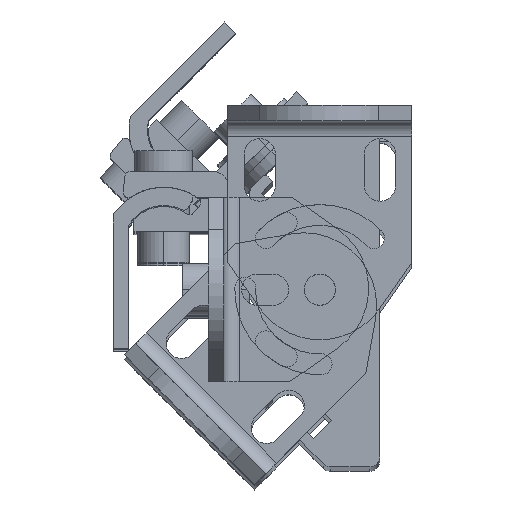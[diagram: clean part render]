
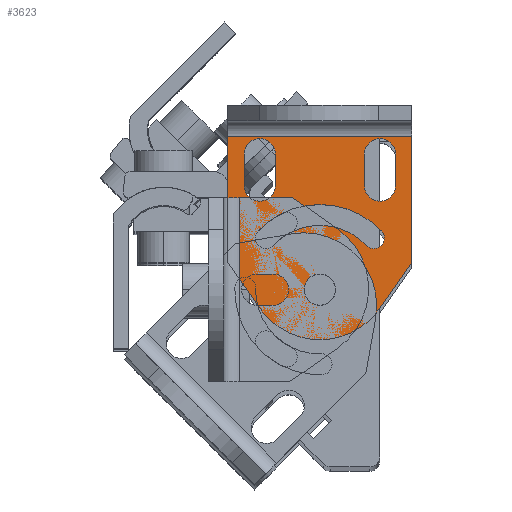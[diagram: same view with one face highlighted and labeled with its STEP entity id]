
A CAD part, top view. The second image highlights one B-rep face of the part: STEP entity #3623.
In plain terms, the highlighted planar face has unit normal (0, 0, 1) as drawn and (0, 0, -1) by its records, which use the part's own axes.
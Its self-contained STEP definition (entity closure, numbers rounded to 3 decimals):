
#3125=CARTESIAN_POINT('',(3.,22.278,-1.5));
#3126=VERTEX_POINT('',#3125);
#3135=CARTESIAN_POINT('',(-3.,22.278,-1.5));
#3136=VERTEX_POINT('',#3135);
#3137=CARTESIAN_POINT('',(0.,22.278,-1.5));
#3138=DIRECTION('',(0.0,0.0,1.0));
#3139=DIRECTION('',(1.0,0.0,0.0));
#3140=AXIS2_PLACEMENT_3D('',#3137,#3138,#3139);
#3141=CIRCLE('',#3140,3.);
#3142=EDGE_CURVE('',#3136,#3126,#3141,.T.);
#3177=CARTESIAN_POINT('',(-17.677,-7.132,-1.5));
#3178=VERTEX_POINT('',#3177);
#3186=CARTESIAN_POINT('',(17.677,-7.132,-1.5));
#3187=VERTEX_POINT('',#3186);
#3188=CARTESIAN_POINT('',(17.677,-7.132,-1.5));
#3189=DIRECTION('',(-1.0,0.0,0.0));
#3190=VECTOR('',#3189,35.354);
#3191=LINE('',#3188,#3190);
#3192=EDGE_CURVE('',#3187,#3178,#3191,.T.);
#3388=CARTESIAN_POINT('',(17.677,17.082,-1.5));
#3389=VERTEX_POINT('',#3388);
#3390=CARTESIAN_POINT('',(17.677,17.082,-1.5));
#3391=DIRECTION('',(0.0,-1.0,0.0));
#3392=VECTOR('',#3391,24.214);
#3393=LINE('',#3390,#3392);
#3394=EDGE_CURVE('',#3389,#3187,#3393,.T.);
#3463=CARTESIAN_POINT('',(-0.043,-2.357,-1.5));
#3464=DIRECTION('',(0.0,0.0,1.0));
#3465=DIRECTION('',(1.0,0.0,0.0));
#3466=AXIS2_PLACEMENT_3D('',#3463,#3464,#3465);
#3467=PLANE('',#3466);
#3468=ORIENTED_EDGE('',*,*,#3192,.T.);
#3469=CARTESIAN_POINT('',(-17.677,17.082,-1.5));
#3470=VERTEX_POINT('',#3469);
#3471=CARTESIAN_POINT('',(-17.677,-7.132,-1.5));
#3472=DIRECTION('',(0.0,1.0,0.0));
#3473=VECTOR('',#3472,24.214);
#3474=LINE('',#3471,#3473);
#3475=EDGE_CURVE('',#3178,#3470,#3474,.T.);
#3476=ORIENTED_EDGE('',*,*,#3475,.T.);
#3477=CARTESIAN_POINT('',(-11.468,25.949,-1.5));
#3478=VERTEX_POINT('',#3477);
#3479=CARTESIAN_POINT('',(-17.677,17.082,-1.5));
#3480=DIRECTION('',(0.574,0.819,0.0));
#3481=VECTOR('',#3480,10.825);
#3482=LINE('',#3479,#3481);
#3483=EDGE_CURVE('',#3470,#3478,#3482,.T.);
#3484=ORIENTED_EDGE('',*,*,#3483,.T.);
#3485=CARTESIAN_POINT('',(11.468,25.949,-1.5));
#3486=VERTEX_POINT('',#3485);
#3487=CARTESIAN_POINT('',(0.,17.919,-1.5));
#3488=DIRECTION('',(0.0,0.0,-1.0));
#3489=DIRECTION('',(1.0,0.0,0.0));
#3490=AXIS2_PLACEMENT_3D('',#3487,#3488,#3489);
#3491=CIRCLE('',#3490,14.);
#3492=EDGE_CURVE('',#3478,#3486,#3491,.T.);
#3493=ORIENTED_EDGE('',*,*,#3492,.T.);
#3494=CARTESIAN_POINT('',(11.468,25.949,-1.5));
#3495=DIRECTION('',(0.574,-0.819,0.0));
#3496=VECTOR('',#3495,10.825);
#3497=LINE('',#3494,#3496);
#3498=EDGE_CURVE('',#3486,#3389,#3497,.T.);
#3499=ORIENTED_EDGE('',*,*,#3498,.T.);
#3500=ORIENTED_EDGE('',*,*,#3394,.T.);
#3501=EDGE_LOOP('',(#3468,#3476,#3484,#3493,#3499,#3500));
#3502=FACE_OUTER_BOUND('',#3501,.T.);
#3503=CARTESIAN_POINT('',(-8.55,2.278,-1.5));
#3504=VERTEX_POINT('',#3503);
#3505=CARTESIAN_POINT('',(-14.55,2.278,-1.5));
#3506=VERTEX_POINT('',#3505);
#3507=CARTESIAN_POINT('',(-11.55,2.278,-1.5));
#3508=DIRECTION('',(0.0,0.0,1.0));
#3509=DIRECTION('',(1.0,0.0,0.0));
#3510=AXIS2_PLACEMENT_3D('',#3507,#3508,#3509);
#3511=CIRCLE('',#3510,3.);
#3512=EDGE_CURVE('',#3504,#3506,#3511,.T.);
#3513=ORIENTED_EDGE('',*,*,#3512,.T.);
#3514=CARTESIAN_POINT('',(-14.55,-3.722,-1.5));
#3515=VERTEX_POINT('',#3514);
#3516=CARTESIAN_POINT('',(-14.55,2.278,-1.5));
#3517=DIRECTION('',(0.0,-1.0,0.0));
#3518=VECTOR('',#3517,6.);
#3519=LINE('',#3516,#3518);
#3520=EDGE_CURVE('',#3506,#3515,#3519,.T.);
#3521=ORIENTED_EDGE('',*,*,#3520,.T.);
#3522=CARTESIAN_POINT('',(-8.55,-3.722,-1.5));
#3523=VERTEX_POINT('',#3522);
#3524=CARTESIAN_POINT('',(-11.55,-3.722,-1.5));
#3525=DIRECTION('',(0.0,0.0,1.0));
#3526=DIRECTION('',(1.0,0.0,0.0));
#3527=AXIS2_PLACEMENT_3D('',#3524,#3525,#3526);
#3528=CIRCLE('',#3527,3.);
#3529=EDGE_CURVE('',#3515,#3523,#3528,.T.);
#3530=ORIENTED_EDGE('',*,*,#3529,.T.);
#3531=CARTESIAN_POINT('',(-8.55,-3.722,-1.5));
#3532=DIRECTION('',(0.0,1.0,0.0));
#3533=VECTOR('',#3532,6.);
#3534=LINE('',#3531,#3533);
#3535=EDGE_CURVE('',#3523,#3504,#3534,.T.);
#3536=ORIENTED_EDGE('',*,*,#3535,.T.);
#3537=EDGE_LOOP('',(#3513,#3521,#3530,#3536));
#3538=FACE_BOUND('',#3537,.T.);
#3539=CARTESIAN_POINT('',(8.936,13.767,-1.5));
#3540=VERTEX_POINT('',#3539);
#3541=CARTESIAN_POINT('',(-8.929,13.76,-1.5));
#3542=VERTEX_POINT('',#3541);
#3543=CARTESIAN_POINT('',(0.,22.278,-1.5));
#3544=DIRECTION('',(0.0,0.0,-1.0));
#3545=DIRECTION('',(1.0,0.0,0.0));
#3546=AXIS2_PLACEMENT_3D('',#3543,#3544,#3545);
#3547=CIRCLE('',#3546,12.341);
#3548=EDGE_CURVE('',#3540,#3542,#3547,.T.);
#3549=ORIENTED_EDGE('',*,*,#3548,.T.);
#3550=CARTESIAN_POINT('',(-11.824,10.999,-1.5));
#3551=VERTEX_POINT('',#3550);
#3552=CARTESIAN_POINT('',(-10.377,12.379,-1.5));
#3553=DIRECTION('',(0.0,0.0,1.0));
#3554=DIRECTION('',(1.0,0.0,0.0));
#3555=AXIS2_PLACEMENT_3D('',#3552,#3553,#3554);
#3556=CIRCLE('',#3555,2.);
#3557=EDGE_CURVE('',#3542,#3551,#3556,.T.);
#3558=ORIENTED_EDGE('',*,*,#3557,.T.);
#3559=CARTESIAN_POINT('',(11.832,11.008,-1.5));
#3560=VERTEX_POINT('',#3559);
#3561=CARTESIAN_POINT('',(0.,22.278,-1.5));
#3562=DIRECTION('',(0.0,0.0,1.0));
#3563=DIRECTION('',(1.0,0.0,0.0));
#3564=AXIS2_PLACEMENT_3D('',#3561,#3562,#3563);
#3565=CIRCLE('',#3564,16.341);
#3566=EDGE_CURVE('',#3551,#3560,#3565,.T.);
#3567=ORIENTED_EDGE('',*,*,#3566,.T.);
#3568=CARTESIAN_POINT('',(10.384,12.387,-1.5));
#3569=DIRECTION('',(0.0,0.0,1.0));
#3570=DIRECTION('',(1.0,0.0,0.0));
#3571=AXIS2_PLACEMENT_3D('',#3568,#3569,#3570);
#3572=CIRCLE('',#3571,2.);
#3573=EDGE_CURVE('',#3560,#3540,#3572,.T.);
#3574=ORIENTED_EDGE('',*,*,#3573,.T.);
#3575=EDGE_LOOP('',(#3549,#3558,#3567,#3574));
#3576=FACE_BOUND('',#3575,.T.);
#3577=CARTESIAN_POINT('',(8.55,-3.722,-1.5));
#3578=VERTEX_POINT('',#3577);
#3579=CARTESIAN_POINT('',(14.55,-3.722,-1.5));
#3580=VERTEX_POINT('',#3579);
#3581=CARTESIAN_POINT('',(11.55,-3.722,-1.5));
#3582=DIRECTION('',(0.0,0.0,1.0));
#3583=DIRECTION('',(1.0,0.0,0.0));
#3584=AXIS2_PLACEMENT_3D('',#3581,#3582,#3583);
#3585=CIRCLE('',#3584,3.);
#3586=EDGE_CURVE('',#3578,#3580,#3585,.T.);
#3587=ORIENTED_EDGE('',*,*,#3586,.T.);
#3588=CARTESIAN_POINT('',(14.55,2.278,-1.5));
#3589=VERTEX_POINT('',#3588);
#3590=CARTESIAN_POINT('',(14.55,-3.722,-1.5));
#3591=DIRECTION('',(0.0,1.0,0.0));
#3592=VECTOR('',#3591,6.);
#3593=LINE('',#3590,#3592);
#3594=EDGE_CURVE('',#3580,#3589,#3593,.T.);
#3595=ORIENTED_EDGE('',*,*,#3594,.T.);
#3596=CARTESIAN_POINT('',(8.55,2.278,-1.5));
#3597=VERTEX_POINT('',#3596);
#3598=CARTESIAN_POINT('',(11.55,2.278,-1.5));
#3599=DIRECTION('',(0.0,0.0,1.0));
#3600=DIRECTION('',(1.0,0.0,0.0));
#3601=AXIS2_PLACEMENT_3D('',#3598,#3599,#3600);
#3602=CIRCLE('',#3601,3.);
#3603=EDGE_CURVE('',#3589,#3597,#3602,.T.);
#3604=ORIENTED_EDGE('',*,*,#3603,.T.);
#3605=CARTESIAN_POINT('',(8.55,2.278,-1.5));
#3606=DIRECTION('',(0.0,-1.0,0.0));
#3607=VECTOR('',#3606,6.);
#3608=LINE('',#3605,#3607);
#3609=EDGE_CURVE('',#3597,#3578,#3608,.T.);
#3610=ORIENTED_EDGE('',*,*,#3609,.T.);
#3611=EDGE_LOOP('',(#3587,#3595,#3604,#3610));
#3612=FACE_BOUND('',#3611,.T.);
#3613=CARTESIAN_POINT('',(0.,22.278,-1.5));
#3614=DIRECTION('',(0.0,0.0,1.0));
#3615=DIRECTION('',(1.0,0.0,0.0));
#3616=AXIS2_PLACEMENT_3D('',#3613,#3614,#3615);
#3617=CIRCLE('',#3616,3.);
#3618=EDGE_CURVE('',#3126,#3136,#3617,.T.);
#3619=ORIENTED_EDGE('',*,*,#3618,.T.);
#3620=ORIENTED_EDGE('',*,*,#3142,.T.);
#3621=EDGE_LOOP('',(#3619,#3620));
#3622=FACE_BOUND('',#3621,.T.);
#3623=ADVANCED_FACE('',(#3502,#3538,#3576,#3612,#3622),#3467,.F.);
